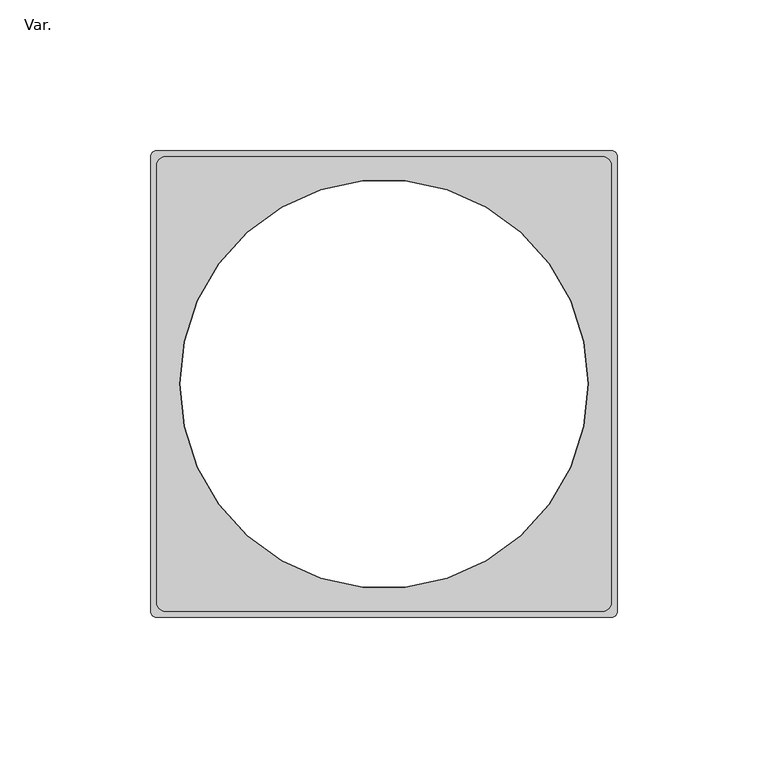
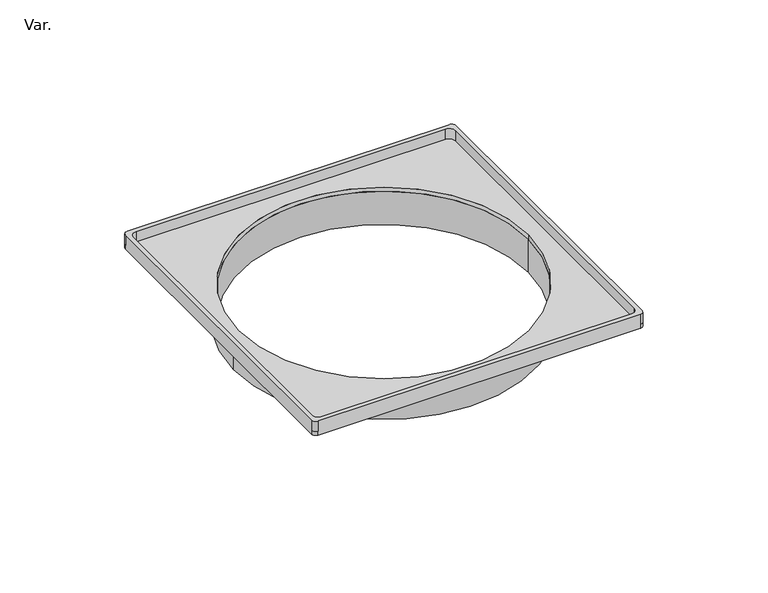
"""IFC4 building model written with IfcOpenShell, lengths in millimetres: pipe fitting geometry, AmancoWavin_ConexõesdeTubos_EsgotoZNãoUsarPortaGrelhaSilentium : Var.."""

from ifc_helpers import new_model, si_unit, frame, origin, place, context, project, spatial, polyline, circle_curve, source, transform, mapped, element, save
from ifc_brep_helpers import plane_surface, cylinder_surface, revolved_surface, advanced_brep


def var_b98f59b0(model_context):
    return source(origin(), model_context, "Body", "AdvancedBrep", [
        advanced_brep(
        [(5.0973558, 77.5, 7.0), (-145.9026442, 77.5, 7.0), (-147.9026442, 75.5, 7.0), (-147.9026442, -75.5, 7.0), (-145.9026442, -77.5, 7.0), (5.0973558, -77.5, 7.0), (7.0973558, -75.5, 7.0), (7.0973558, 75.5, 7.0), (2.0973558, 75.5, 7.0), (5.0973558, 72.5, 7.0), (5.0973558, -72.5, 7.0), (2.0973558, -75.5, 7.0), (-142.9026442, -75.5, 7.0), (-145.9026442, -72.5, 7.0), (-145.9026442, 72.5, 7.0), (-142.9026442, 75.5, 7.0), (5.0973558, 77.5, 2.0), (5.0973558, 77.5, 0.0), (-145.9026442, 77.5, 0.0), (-145.9026442, 77.5, 2.0), (-147.9026442, 75.5, 2.0), (-147.9026442, 75.5, 0.0), (-147.9026442, -75.5, 0.0), (-147.9026442, -75.5, 2.0), (-145.9026442, -77.5, 2.0), (-145.9026442, -77.5, 0.0), (5.0973558, -77.5, 0.0), (5.0973558, -77.5, 2.0), (7.0973558, -75.5, 2.0), (7.0973558, -75.5, 0.0), (7.0973558, 75.5, 0.0), (7.0973558, 75.5, 2.0), (2.0973558, 75.5, 2.0), (5.0973558, 72.5, 2.0), (5.0973558, -72.5, 2.0), (2.0973558, -75.5, 2.0), (-142.9026442, -75.5, 2.0), (-145.9026442, -72.5, 2.0), (-145.9026442, 72.5, 2.0), (-142.9026442, 75.5, 2.0), (-138.2026442, 0.0, 2.0), (-2.6026442, 0.0, 2.0), (-138.2026442, 0.0, 0.0), (-2.6026442, 0.0, 0.0)],
        [
            (0, 1),
            (1, 2, circle_curve(frame((-145.9026442, 75.5, 7.0), z_axis=(0.0, 0.0, 1.0), x_axis=(1.0, 0.0, 0.0)), 2.0)),
            (2, 3),
            (3, 4, circle_curve(frame((-145.9026442, -75.5, 7.0), z_axis=(0.0, 0.0, 1.0), x_axis=(1.0, 0.0, 0.0)), 2.0)),
            (4, 5),
            (5, 6, circle_curve(frame((5.0973558, -75.5, 7.0), z_axis=(0.0, 0.0, 1.0), x_axis=(1.0, 0.0, 0.0)), 2.0)),
            (6, 7),
            (7, 0, circle_curve(frame((5.0973558, 75.5, 7.0), z_axis=(0.0, 0.0, 1.0), x_axis=(1.0, 0.0, 0.0)), 2.0)),
            (8, 9, circle_curve(frame((2.0973558, 72.5, 7.0), z_axis=(0.0, 0.0, -1.0), x_axis=(1.0, 0.0, 0.0)), 3.0)),
            (9, 10),
            (10, 11, circle_curve(frame((2.0973558, -72.5, 7.0), z_axis=(0.0, 0.0, -1.0), x_axis=(1.0, 0.0, 0.0)), 3.0)),
            (11, 12),
            (12, 13, circle_curve(frame((-142.9026442, -72.5, 7.0), z_axis=(0.0, 0.0, -1.0), x_axis=(1.0, 0.0, 0.0)), 3.0)),
            (13, 14),
            (14, 15, circle_curve(frame((-142.9026442, 72.5, 7.0), z_axis=(0.0, 0.0, -1.0), x_axis=(1.0, 0.0, 0.0)), 3.0)),
            (15, 8),
            (0, 16),
            (16, 17),
            (17, 18),
            (18, 19),
            (19, 1),
            (19, 20, circle_curve(frame((-145.9026442, 75.5, 2.0), z_axis=(0.0, 0.0, 1.0), x_axis=(1.0, 0.0, 0.0)), 2.0)),
            (20, 2),
            (20, 21),
            (21, 22),
            (22, 23),
            (23, 3),
            (23, 24, circle_curve(frame((-145.9026442, -75.5, 2.0), z_axis=(0.0, 0.0, 1.0), x_axis=(1.0, 0.0, 0.0)), 2.0)),
            (24, 4),
            (24, 25),
            (25, 26),
            (26, 27),
            (27, 5),
            (27, 28, circle_curve(frame((5.0973558, -75.5, 2.0), z_axis=(0.0, 0.0, 1.0), x_axis=(1.0, 0.0, 0.0)), 2.0)),
            (28, 6),
            (28, 29),
            (29, 30),
            (30, 31),
            (31, 7),
            (31, 16, circle_curve(frame((5.0973558, 75.5, 2.0), z_axis=(0.0, 0.0, 1.0), x_axis=(1.0, 0.0, 0.0)), 2.0)),
            (8, 32),
            (32, 33, circle_curve(frame((2.0973558, 72.5, 2.0), z_axis=(0.0, 0.0, -1.0), x_axis=(1.0, 0.0, 0.0)), 3.0)),
            (33, 9),
            (33, 34),
            (34, 10),
            (34, 35, circle_curve(frame((2.0973558, -72.5, 2.0), z_axis=(0.0, 0.0, -1.0), x_axis=(1.0, 0.0, 0.0)), 3.0)),
            (35, 11),
            (35, 36),
            (36, 12),
            (36, 37, circle_curve(frame((-142.9026442, -72.5, 2.0), z_axis=(0.0, 0.0, -1.0), x_axis=(1.0, 0.0, 0.0)), 3.0)),
            (37, 13),
            (37, 38),
            (38, 14),
            (38, 39, circle_curve(frame((-142.9026442, 72.5, 2.0), z_axis=(0.0, 0.0, -1.0), x_axis=(1.0, 0.0, 0.0)), 3.0)),
            (39, 15),
            (39, 32),
            (40, 41, circle_curve(frame((-70.4026442, 0.0, 2.0), z_axis=(0.0, 0.0, -1.0), x_axis=(1.0, 0.0, 0.0)), 67.8)),
            (41, 40, circle_curve(frame((-70.4026442, 0.0, 2.0), z_axis=(0.0, 0.0, -1.0), x_axis=(1.0, 0.0, 0.0)), 67.8)),
            (17, 30, circle_curve(frame((5.0973558, 75.5, 0.0), z_axis=(0.0, 0.0, -1.0), x_axis=(1.0, 0.0, 0.0)), 2.0)),
            (29, 26, circle_curve(frame((5.0973558, -75.5, 0.0), z_axis=(0.0, 0.0, -1.0), x_axis=(1.0, 0.0, 0.0)), 2.0)),
            (25, 22, circle_curve(frame((-145.9026442, -75.5, 0.0), z_axis=(0.0, 0.0, -1.0), x_axis=(1.0, 0.0, 0.0)), 2.0)),
            (21, 18, circle_curve(frame((-145.9026442, 75.5, 0.0), z_axis=(0.0, 0.0, -1.0), x_axis=(1.0, 0.0, 0.0)), 2.0)),
            (42, 43, circle_curve(frame((-70.4026442, 0.0, 0.0), z_axis=(0.0, 0.0, 1.0), x_axis=(1.0, 0.0, 0.0)), 67.8)),
            (43, 42, circle_curve(frame((-70.4026442, 0.0, 0.0), z_axis=(0.0, 0.0, 1.0), x_axis=(1.0, 0.0, 0.0)), 67.8)),
            (40, 42),
            (43, 41),
        ],
        [
            plane_surface(frame((-145.9026442, 77.5, 7.0), z_axis=(0.0, 0.0, 1.0), x_axis=(-1.0, 0.0, 0.0))),
            plane_surface(frame((5.0973558, 77.5, 7.0), z_axis=(0.0, 1.0, 0.0), x_axis=(0.0, 0.0, -1.0))),
            cylinder_surface(frame((-145.9026442, 75.5, 2.0), z_axis=(0.0, 0.0, 1.0), x_axis=(1.0, 0.0, 0.0)), 2.0),
            plane_surface(frame((-147.9026442, 75.5, 7.0), z_axis=(-1.0, 0.0, 0.0), x_axis=(0.0, 0.0, -1.0))),
            cylinder_surface(frame((-145.9026442, -75.5, 2.0), z_axis=(0.0, 0.0, 1.0), x_axis=(1.0, 0.0, 0.0)), 2.0),
            plane_surface(frame((-145.9026442, -77.5, 7.0), z_axis=(0.0, -1.0, 0.0), x_axis=(0.0, 0.0, -1.0))),
            cylinder_surface(frame((5.0973558, -75.5, 2.0), z_axis=(0.0, 0.0, 1.0), x_axis=(1.0, 0.0, 0.0)), 2.0),
            plane_surface(frame((7.0973558, -75.5, 7.0), z_axis=(1.0, 0.0, 0.0), x_axis=(0.0, 0.0, -1.0))),
            cylinder_surface(frame((5.0973558, 75.5, 2.0), z_axis=(0.0, 0.0, 1.0), x_axis=(1.0, 0.0, 0.0)), 2.0),
            revolved_surface(polyline([(5.0973558, 72.5, 2.0), (5.0973558, 72.5, 7.0)]), (2.0973558, 72.5, 0.0), (0.0, 0.0, -1.0)),
            plane_surface(frame((5.0973558, 72.5, 7.0), z_axis=(-1.0, 0.0, 0.0), x_axis=(0.0, 0.0, -1.0))),
            revolved_surface(polyline([(5.0973558, -72.5, 2.0), (5.0973558, -72.5, 7.0)]), (2.0973558, -72.5, 0.0), (0.0, 0.0, -1.0)),
            plane_surface(frame((2.0973558, -75.5, 7.0), z_axis=(0.0, 1.0, 0.0), x_axis=(0.0, 0.0, -1.0))),
            revolved_surface(polyline([(-139.9026442, -72.5, 2.0), (-139.9026442, -72.5, 7.0)]), (-142.9026442, -72.5, 0.0), (0.0, 0.0, -1.0)),
            plane_surface(frame((-145.9026442, -72.5, 7.0), z_axis=(1.0, 0.0, 0.0), x_axis=(0.0, 0.0, -1.0))),
            revolved_surface(polyline([(-139.9026442, 72.5, 2.0), (-139.9026442, 72.5, 7.0)]), (-142.9026442, 72.5, 0.0), (0.0, 0.0, -1.0)),
            plane_surface(frame((-142.9026442, 75.5, 7.0), z_axis=(0.0, -1.0, 0.0), x_axis=(0.0, 0.0, -1.0))),
            plane_surface(frame((-145.9026442, 77.5, 2.0), z_axis=(0.0, 0.0, 1.0), x_axis=(-1.0, 0.0, 0.0))),
            plane_surface(frame((-145.9026442, 77.5, 0.0), z_axis=(0.0, 0.0, -1.0), x_axis=(1.0, 0.0, 0.0))),
            cylinder_surface(frame((-145.9026442, 75.5, 0.0), z_axis=(0.0, 0.0, 1.0), x_axis=(1.0, 0.0, 0.0)), 2.0),
            cylinder_surface(frame((-145.9026442, -75.5, 0.0), z_axis=(0.0, 0.0, 1.0), x_axis=(1.0, 0.0, 0.0)), 2.0),
            cylinder_surface(frame((5.0973558, -75.5, 0.0), z_axis=(0.0, 0.0, 1.0), x_axis=(1.0, 0.0, 0.0)), 2.0),
            cylinder_surface(frame((5.0973558, 75.5, 0.0), z_axis=(0.0, 0.0, 1.0), x_axis=(1.0, 0.0, 0.0)), 2.0),
            revolved_surface(polyline([(-2.6026442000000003, 0.0, 0.0), (-2.6026442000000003, 0.0, 2.0)]), (-70.4026442, 0.0, 0.0), (0.0, 0.0, -1.0)),
        ],
        [
            (0, [[1, 2, 3, 4, 5, 6, 7, 8], [9, 10, 11, 12, 13, 14, 15, 16]]),
            (1, [[-1, 17, 18, 19, 20, 21]]),
            (2, [[-2, -21, 22, 23]]),
            (3, [[-3, -23, 24, 25, 26, 27]]),
            (4, [[-4, -27, 28, 29]]),
            (5, [[-5, -29, 30, 31, 32, 33]]),
            (6, [[-6, -33, 34, 35]]),
            (7, [[-7, -35, 36, 37, 38, 39]]),
            (8, [[-8, -39, 40, -17]]),
            (9, [[-9, 41, 42, 43]]),
            (10, [[-10, -43, 44, 45]]),
            (11, [[-11, -45, 46, 47]]),
            (12, [[-12, -47, 48, 49]]),
            (13, [[-13, -49, 50, 51]]),
            (14, [[-14, -51, 52, 53]]),
            (15, [[-15, -53, 54, 55]]),
            (16, [[-16, -55, 56, -41]]),
            (17, [[-42, -56, -54, -52, -50, -48, -46, -44], [57, 58]]),
            (18, [[59, -37, 60, -31, 61, -25, 62, -19], [63, 64]]),
            (19, [[-62, -24, -22, -20]]),
            (20, [[-61, -30, -28, -26]]),
            (21, [[-60, -36, -34, -32]]),
            (22, [[-59, -18, -40, -38]]),
            (23, [[-57, 65, -64, 66]]),
            (23, [[-58, -66, -63, -65]]),
        ],
    ),
        advanced_brep(
        [(-2.6026442, 0.0, 0.0), (-138.2026442, 0.0, 0.0), (-140.8026442, 0.0, 0.0), (-0.0026442, 0.0, 0.0), (-2.6026442, 0.0, -16.5), (-138.2026442, 0.0, -16.5), (-0.0026442, 0.0, -16.5), (-140.8026442, 0.0, -16.5)],
        [
            (0, 1, circle_curve(frame((-70.4026442, 0.0, 0.0), z_axis=(0.0, 0.0, -1.0), x_axis=(-1.0, 0.0, 0.0)), 67.8)),
            (1, 2),
            (2, 3, circle_curve(frame((-70.4026442, 0.0, 0.0), z_axis=(0.0, 0.0, 1.0), x_axis=(-1.0, 0.0, 0.0)), 70.4)),
            (3, 0),
            (1, 0, circle_curve(frame((-70.4026442, 0.0, 0.0), z_axis=(0.0, 0.0, -1.0), x_axis=(-1.0, 0.0, 0.0)), 67.8)),
            (3, 2, circle_curve(frame((-70.4026442, 0.0, 0.0), z_axis=(0.0, 0.0, 1.0), x_axis=(-1.0, 0.0, 0.0)), 70.4)),
            (4, 5, circle_curve(frame((-70.4026442, 0.0, -16.5), z_axis=(0.0, 0.0, -1.0), x_axis=(-1.0, 0.0, 0.0)), 67.8)),
            (5, 1),
            (0, 4),
            (5, 4, circle_curve(frame((-70.4026442, 0.0, -16.5), z_axis=(0.0, 0.0, -1.0), x_axis=(-1.0, 0.0, 0.0)), 67.8)),
            (6, 7, circle_curve(frame((-70.4026442, 0.0, -16.5), z_axis=(0.0, 0.0, -1.0), x_axis=(-1.0, 0.0, 0.0)), 70.4)),
            (7, 5),
            (4, 6),
            (7, 6, circle_curve(frame((-70.4026442, 0.0, -16.5), z_axis=(0.0, 0.0, -1.0), x_axis=(-1.0, 0.0, 0.0)), 70.4)),
            (2, 7),
            (6, 3),
        ],
        [
            plane_surface(frame((-70.4026442, 0.0, 0.0), z_axis=(0.0, 0.0, 1.0), x_axis=(-1.0, 0.0, 0.0))),
            revolved_surface(polyline([(-138.2026442, 0.0, 0.0), (-138.2026442, 0.0, -16.5)]), (-70.4026442, 0.0, -2213.8150031), (0.0, 0.0, 1.0)),
            plane_surface(frame((-70.4026442, 0.0, -16.5), z_axis=(0.0, 0.0, -1.0), x_axis=(-1.0, 0.0, 0.0))),
            cylinder_surface(frame((-70.4026442, 0.0, -2213.8150031), z_axis=(0.0, 0.0, 1.0), x_axis=(-1.0, 0.0, 0.0)), 70.4),
        ],
        [
            (0, [[1, 2, 3, 4]]),
            (0, [[5, -4, 6, -2]]),
            (1, [[7, 8, -1, 9]]),
            (1, [[10, -9, -5, -8]]),
            (2, [[11, 12, -7, 13]]),
            (2, [[14, -13, -10, -12]]),
            (3, [[-3, 15, -11, 16]]),
            (3, [[-6, -16, -14, -15]]),
        ],
    ),
    ])


if __name__ == "__main__":
    model = new_model("IFC4")
    model_context = context("Model", 3, world=origin())
    ifc_project = project(units=[si_unit("LENGTHUNIT", "METRE", prefix="MILLI")], contexts=[model_context])
    site = spatial("IfcSite", under=ifc_project)
    building = spatial("IfcBuilding", under=site)
    placement = place(None, origin())
    var_shape = var_b98f59b0(model_context)
    element("IfcPipeFitting", 1, ObjectType="AmancoWavin_ConexõesdeTubos_EsgotoZNãoUsarPortaGrelhaSilentium : Var.", at=placement, inside=building, context=model_context, shape_type="MappedRepresentation", body=[
        mapped(var_shape, transform((0.0, 0.0, 0.0), x_axis=(1.0, 0.0, 0.0), y_axis=(0.0, 1.0, 0.0), z_axis=(0.0, 0.0, 1.0))),
    ])
    save(model, "model.ifc")
